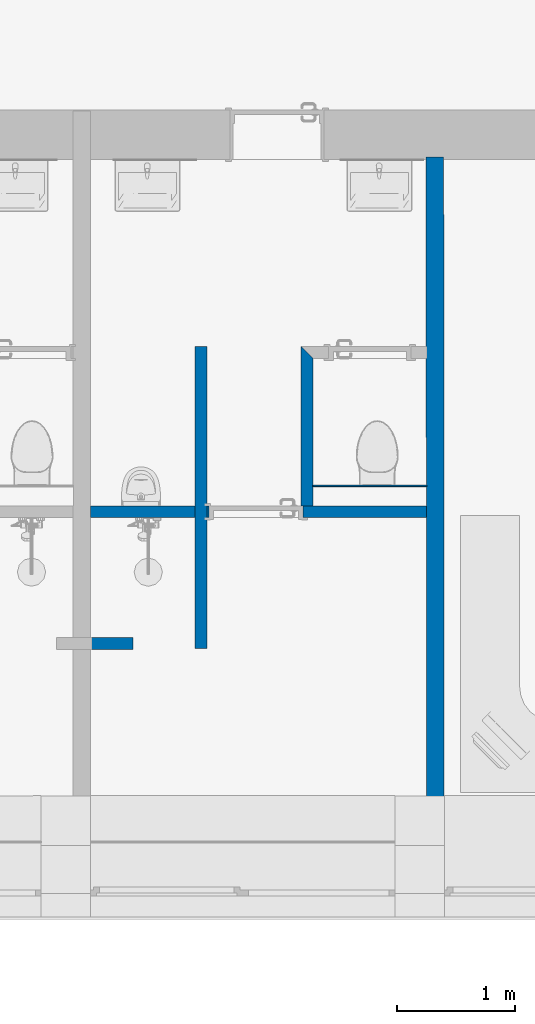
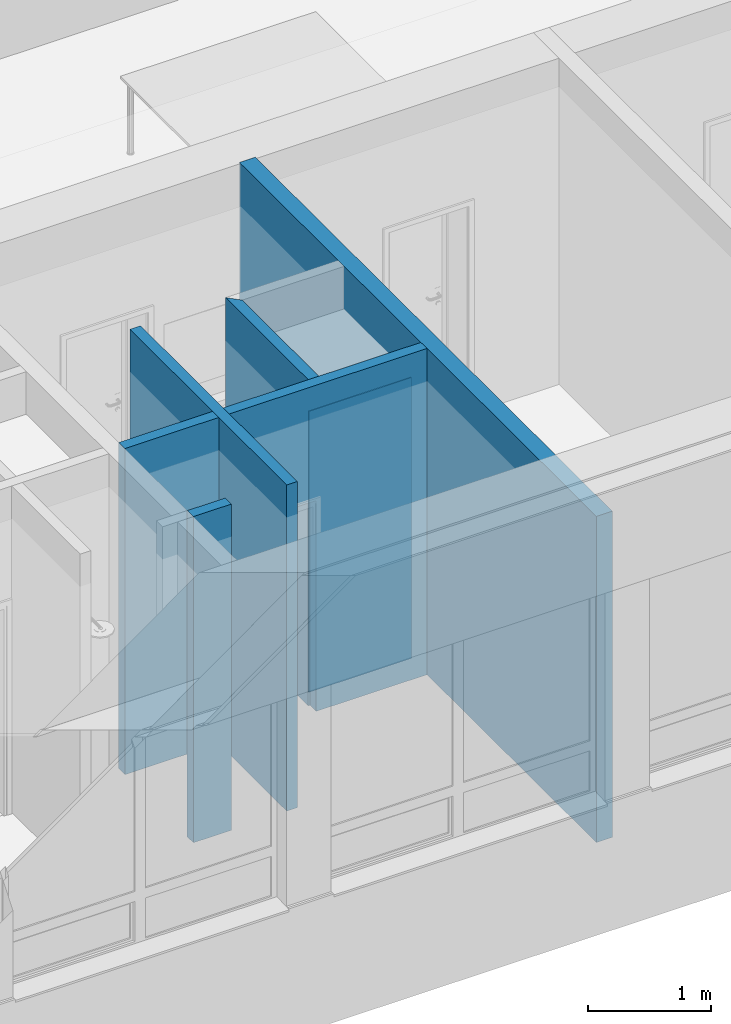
# One storey, part 23 of 194: 6 walls, 1 opening.
"""IFC2X3 building model written with IfcOpenShell, lengths in millimetres."""

from ifc_helpers import new_model, entity, si_unit, converted_unit, derived_unit, money_unit, direction, frame, origin_with_axes, origin_2d_with_axis, place, context, subcontext, project, spatial, polyline, rectangle, outline, extrude, material, layer, layer_set, layer_usage, type_object, element, save


model = new_model("IFC2X3")

# Units and contexts
model_context = context("Model", 3, precision=1e-05, world=origin_with_axes(), true_north=direction((0.0, 1.0)))
body_context = subcontext(model_context, "Body", "Model", "MODEL_VIEW")
ifc_project = project(units=[si_unit("LENGTHUNIT", "METRE", prefix="MILLI"), si_unit("AREAUNIT", "SQUARE_METRE"), si_unit("VOLUMEUNIT", "CUBIC_METRE"), converted_unit("PLANEANGLEUNIT", "DEGREE", entity("IfcPlaneAngleMeasure", 0.0174532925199), si_unit("PLANEANGLEUNIT", "RADIAN"), dimensions=[0, 0, 0, 0, 0, 0, 0]), si_unit("SOLIDANGLEUNIT", "STERADIAN"), money_unit("EUR"), converted_unit("TIMEUNIT", "Year", entity("IfcTimeMeasure", 31556926.0), si_unit("TIMEUNIT", "SECOND"), dimensions=[0, 0, 1, 0, 0, 0, 0]), si_unit("MASSUNIT", "GRAM", prefix="KILO"), si_unit("THERMODYNAMICTEMPERATUREUNIT", "DEGREE_CELSIUS"), si_unit("LUMINOUSINTENSITYUNIT", "LUMEN"), si_unit("ENERGYUNIT", "JOULE", prefix="MEGA"), derived_unit("THERMALCONDUCTANCEUNIT", [(si_unit("POWERUNIT", "WATT"), 1), (si_unit("LENGTHUNIT", "METRE"), -1), (si_unit("THERMODYNAMICTEMPERATUREUNIT", "KELVIN"), -1)]), derived_unit("SPECIFICHEATCAPACITYUNIT", [(si_unit("ENERGYUNIT", "JOULE"), 1), (si_unit("MASSUNIT", "GRAM", prefix="KILO"), -1), (si_unit("THERMODYNAMICTEMPERATUREUNIT", "KELVIN"), -1)]), derived_unit("MASSDENSITYUNIT", [(si_unit("MASSUNIT", "GRAM", prefix="KILO"), 1), (si_unit("VOLUMEUNIT", "CUBIC_METRE"), -1)])], contexts=[model_context])

# Site, building, storey
site_placement = place(None, origin_with_axes())
site = spatial("IfcSite", under=ifc_project, at=site_placement, Name="Site", CompositionType="ELEMENT")
building_placement = place(site_placement, origin_with_axes())
building = spatial("IfcBuilding", under=site, at=building_placement, Name="Building", CompositionType="ELEMENT")
storey_placement = place(building_placement, frame((0.0, 0.0, 3000.0), z_axis=(0.0, 0.0, 1.0), x_axis=(1.0, 0.0, 0.0)))
storey = spatial("IfcBuildingStorey", under=building, at=storey_placement, Name="2 KORRUS", CompositionType="ELEMENT", Elevation=3000.0)

# Wall
ifc_material_1 = material(Name="Kivi -Ol.Olev Konstruktsioon")
ifc_layer_1 = layer(ifc_material_1, 150.0, ventilated="UNKNOWN")
ifc_layer_set_1 = layer_set([ifc_layer_1], Name="ol.olev ss 150")
ifc_layer_usage_1 = layer_usage(ifc_layer_set_1, "AXIS2", "NEGATIVE", 0.0)
wall_type_1 = type_object("IfcWallType", Name="SW - 022", PredefinedType="NOTDEFINED")
wall_1_placement = place(storey_placement, frame((76152.6793813, 40603.0734689, 0.0), z_axis=(0.0, 0.0, 1.0), x_axis=(0.00079728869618, -0.999999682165, 0.0)))
element("IfcWallStandardCase", 1, at=wall_1_placement, inside=storey, type_object=wall_type_1, material=ifc_layer_usage_1, Name="ol.olev ss 150", context=body_context, shape_type="SweptSolid", body=[
    extrude(outline(polyline([(0.0, -150.0), (5818.32868565, -150.0), (5818.4354924, 1.13686837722e-10), (0.0, 0.0), (0.0, -150.0)])), origin_with_axes(), (0.0, 0.0, 1.0), 3250.0),
])

# Wall, opening
ifc_layer_2 = layer(ifc_material_1, 100.0, ventilated="UNKNOWN")
ifc_layer_set_2 = layer_set([ifc_layer_2], Name="ol.olev ss 100")
ifc_layer_usage_2 = layer_usage(ifc_layer_set_2, "AXIS2", "POSITIVE", 0.0)
wall_2_placement = place(storey_placement, frame((73157.4279343, 37544.6064086, 0.0), z_axis=(0.0, 0.0, 1.0), x_axis=(1.0, 0.0, 0.0)))
wall_2 = element("IfcWallStandardCase", 2, at=wall_2_placement, inside=storey, type_object=wall_type_1, material=ifc_layer_usage_2, Name="ol.olev ss 100", context=body_context, shape_type="SweptSolid", body=[
    extrude(outline(polyline([(0.0, 0.0), (2847.68988131, 0.0), (2847.61015242, 100.0), (0.0, 100.0), (0.0, 0.0)])), origin_with_axes(), (0.0, 0.0, 1.0), 3250.0),
])
opening_placement = place(wall_2_placement, frame((1402.15777306, 0.0, 0.0), z_axis=(0.0, 0.0, 1.0), x_axis=(1.0, 0.0, 0.0)))
element("IfcOpeningElement", 3, at=opening_placement, cuts=wall_2, Name="Siseuks * Door 22", context=body_context, shape_type="SweptSolid", body=[
    extrude(rectangle(XDim=800.0, YDim=2100.0, at=origin_2d_with_axis()), frame((0.0, -100.0, 1050.0), z_axis=(0.0, -1.0, 0.0), x_axis=(-1.0, 0.0, 0.0)), (0.0, 0.0, -1.0), 300.000000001),
    extrude(rectangle(XDim=874.0, YDim=2137.0, at=origin_2d_with_axis()), frame((0.0, 0.0, 1068.5), z_axis=(0.0, -1.0, 0.0), x_axis=(-1.0, 0.0, 0.0)), (0.0, 0.0, 1.0), 100.0),
    extrude(rectangle(XDim=874.0, YDim=2137.0, at=origin_2d_with_axis()), frame((0.0, 100.0, 1068.5), z_axis=(0.0, 1.0, 0.0), x_axis=(-1.0, 0.0, 0.0)), (0.0, 0.0, 1.0), 100.0),
])

# Walls
ifc_layer_usage_3 = layer_usage(ifc_layer_set_2, "AXIS2", "POSITIVE", -100.0)
wall_3_placement = place(storey_placement, frame((73157.4279343, 36525.9120767, 0.0), z_axis=(0.0, 0.0, 1.0), x_axis=(1.0, 0.0, 0.0)))
element("IfcWallStandardCase", 4, at=wall_3_placement, inside=storey, type_object=wall_type_1, material=ifc_layer_usage_3, Name="ol.olev ss 100", context=body_context, shape_type="SweptSolid", body=[
    extrude(outline(polyline([(0.0, -100.0), (358.778211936, -100.0), (358.778211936, 0.0), (0.0, 0.0), (0.0, -100.0)])), origin_with_axes(), (0.0, 0.0, 1.0), 3250.0),
])
ifc_layer_usage_4 = layer_usage(ifc_layer_set_2, "AXIS2", "POSITIVE", -100.0)
wall_4_placement = place(storey_placement, frame((74042.4339934, 36434.8191135, 0.0), z_axis=(0.0, 0.0, 1.0), x_axis=(0.0, 1.0, 0.0)))
element("IfcWallStandardCase", 5, at=wall_4_placement, inside=storey, type_object=wall_type_1, material=ifc_layer_usage_4, Name="ol.olev ss 100", context=body_context, shape_type="SweptSolid", body=[
    extrude(outline(polyline([(0.0, -100.0), (2559.78729483, -100.0), (2559.78729483, 0.0), (0.0, 0.0), (0.0, -100.0)])), origin_with_axes(), (0.0, 0.0, 1.0), 3250.0),
])
ifc_layer_usage_5 = layer_usage(ifc_layer_set_2, "AXIS2", "POSITIVE", -100.0)
wall_5_placement = place(storey_placement, frame((74943.5450099, 37544.6064086, 0.0), z_axis=(0.0, 0.0, 1.0), x_axis=(0.0, 1.0, 0.0)))
element("IfcWallStandardCase", 6, at=wall_5_placement, inside=storey, type_object=wall_type_1, material=ifc_layer_usage_5, Name="ol.olev ss 100", context=body_context, shape_type="SweptSolid", body=[
    extrude(outline(polyline([(100.0, -100.0), (1349.99999972, -100.0), (1449.99999972, 0.0), (100.0, 0.0), (100.0, -100.0)])), origin_with_axes(), (0.0, 0.0, 1.0), 3250.0),
])
ifc_material_2 = material(Name="Kipsplaat")
ifc_layer_3 = layer(ifc_material_2, 13.0, ventilated="UNKNOWN")
ifc_layer_set_3 = layer_set([ifc_layer_3], Name="Kipsplaat 13")
ifc_layer_usage_6 = layer_usage(ifc_layer_set_3, "AXIS2", "NEGATIVE", 0.0)
wall_type_2 = type_object("IfcWallType", Name="loputuskasti raam", PredefinedType="NOTDEFINED")
wall_6_placement = place(storey_placement, frame((75043.5450099, 37820.6064086, 0.0), z_axis=(0.0, 0.0, 1.0), x_axis=(1.0, 0.0, 0.0)))
element("IfcWallStandardCase", 7, at=wall_6_placement, inside=storey, type_object=wall_type_2, material=ifc_layer_usage_6, Name="Kipsplaat", context=body_context, shape_type="SweptSolid", body=[
    extrude(outline(polyline([(0.0, -12.9999999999), (966.876360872, -12.9999999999), (966.876360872, 0.0), (0.0, 0.0), (0.0, -12.9999999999)])), origin_with_axes(), (0.0, 0.0, 1.0), 2800.0),
])

save(model, "model.ifc")
